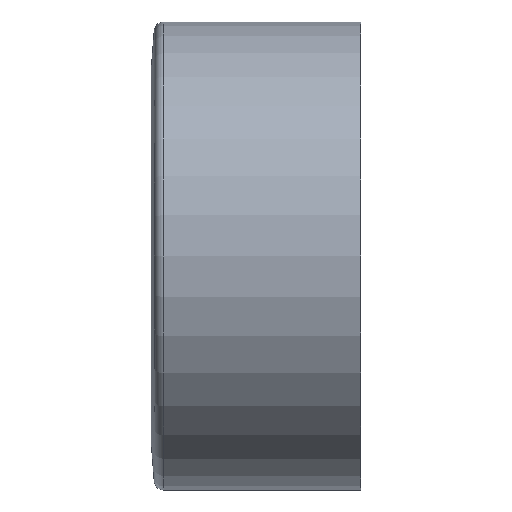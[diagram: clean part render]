
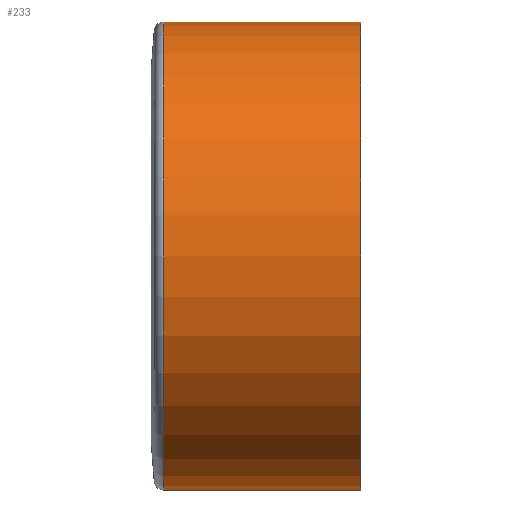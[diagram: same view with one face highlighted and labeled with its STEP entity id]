
A CAD part, front view. The second image highlights one B-rep face of the part: STEP entity #233.
In plain terms, the highlighted cylindrical face has radius 25 mm (diameter 50 mm), a full revolution.
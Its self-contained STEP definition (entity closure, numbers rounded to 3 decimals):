
#46=CYLINDRICAL_SURFACE('',#256,25.);
#54=FACE_BOUND('',#84,.T.);
#64=FACE_OUTER_BOUND('',#83,.T.);
#83=EDGE_LOOP('',(#174));
#84=EDGE_LOOP('',(#175));
#106=CIRCLE('',#252,25.);
#109=CIRCLE('',#257,25.);
#117=VERTEX_POINT('',#321);
#120=VERTEX_POINT('',#329);
#140=EDGE_CURVE('',#117,#117,#106,.T.);
#143=EDGE_CURVE('',#120,#120,#109,.T.);
#174=ORIENTED_EDGE('',*,*,#143,.T.);
#175=ORIENTED_EDGE('',*,*,#140,.F.);
#233=ADVANCED_FACE('',(#64,#54),#46,.T.);
#252=AXIS2_PLACEMENT_3D('',#322,#277,#278);
#256=AXIS2_PLACEMENT_3D('',#328,#285,#286);
#257=AXIS2_PLACEMENT_3D('',#330,#287,#288);
#277=DIRECTION('center_axis',(-1.,0.,0.));
#278=DIRECTION('ref_axis',(0.,1.,0.));
#285=DIRECTION('center_axis',(-1.,0.,0.));
#286=DIRECTION('ref_axis',(0.,-1.,0.));
#287=DIRECTION('center_axis',(-1.,0.,0.));
#288=DIRECTION('ref_axis',(0.,0.,1.));
#321=CARTESIAN_POINT('',(0.924,-25.,0.));
#322=CARTESIAN_POINT('Origin',(0.924,0.,0.));
#328=CARTESIAN_POINT('Origin',(11.,0.,0.));
#329=CARTESIAN_POINT('',(22.,-25.,0.));
#330=CARTESIAN_POINT('Origin',(22.,0.,0.));
